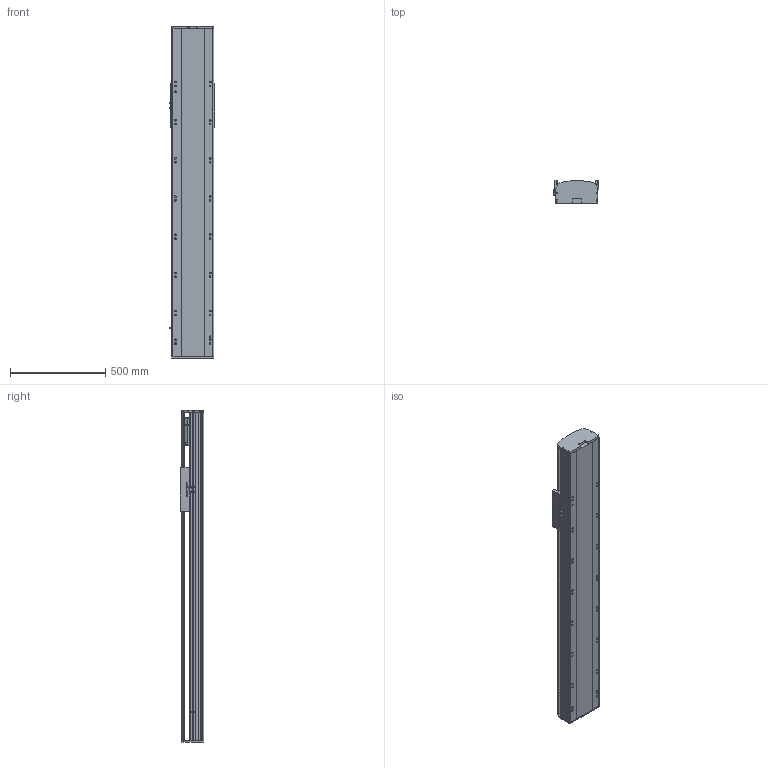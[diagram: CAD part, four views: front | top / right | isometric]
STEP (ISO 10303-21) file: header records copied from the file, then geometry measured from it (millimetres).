
FILE_DESCRIPTION (( 'STEP AP214' ), '1' );
FILE_NAME ('RTH22-XX-1150-B-M75-C4.STEP', '2025-10-24T10:33:19', ( 'Microsoft' ), ( 'Microsoft' ), 'SwSTEP 2.0', 'SolidWorks 2018', '' );
FILE_SCHEMA (( 'AUTOMOTIVE_DESIGN' ));
Length unit declared in the file: millimetre
Products named in the file (9): N_RTH22-B-007奻裔^RTH22-XX-XX-B-M75-C4; N_RTH22-GY-001耜裔^RTH22-XX-XX-B-M75-C4; N_RTH22-E-004-SFS25賑釱^RTH22-XX-XX-B-M75-C4; N_RTH22-GY-013外置感应片^RTH22-XX-XX-B-M75-C4; RTH22-XX-1150-B-M75-C4; N_OMRON EE-SX672 传感器^RTH22-XX-XX-B-M75-C4; N_RTH22-B-008萇儂啣^RTH22-XX-XX-B-M75-C4; N_750W萇儂^RTH22-XX-XX-B-M75-C4; N_RTH22-B-011菁釱^RTH22-XX-XX-B-M75-C4
Assembly tree (10 placements, depth 2):
  RTH22-XX-1150-B-M75-C4
    N_RTH22-B-011菁釱^RTH22-XX-XX-B-M75-C4
    N_RTH22-GY-001耜裔^RTH22-XX-XX-B-M75-C4
    N_750W萇儂^RTH22-XX-XX-B-M75-C4
    N_RTH22-B-008萇儂啣^RTH22-XX-XX-B-M75-C4
    N_RTH22-B-007奻裔^RTH22-XX-XX-B-M75-C4
    N_OMRON EE-SX672 传感器^RTH22-XX-XX-B-M75-C4  x3
    N_RTH22-GY-013外置感应片^RTH22-XX-XX-B-M75-C4
    N_RTH22-E-004-SFS25賑釱^RTH22-XX-XX-B-M75-C4
Bounding box: 238.5 x 122 x 1740 mm (x, y, z)
Volume: 23235799.7 mm3; surface area: 2386719.8 mm2
Topology: 10 solids, 10 shells, 1551 faces, 4250 edges, 2743 vertices
Faces by surface type: plane 756, cylinder 454, bspline 279, cone 62
Entity records: 38749 total; most frequent: CARTESIAN_POINT 11993, ORIENTED_EDGE 5468, DIRECTION 5152, EDGE_CURVE 2734, VERTEX_POINT 1779, AXIS2_PLACEMENT_3D 1742, VECTOR 1668, LINE 1668
